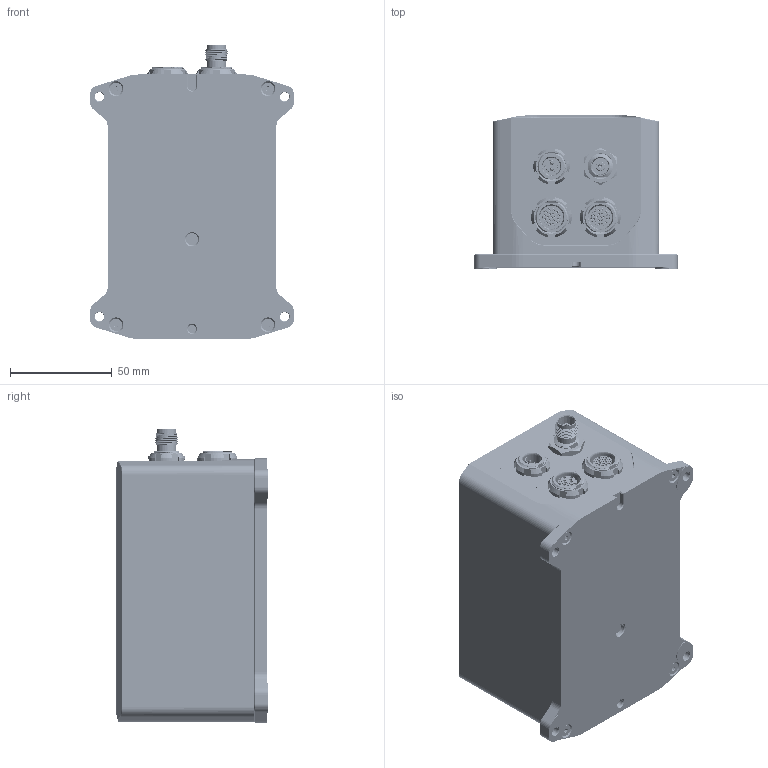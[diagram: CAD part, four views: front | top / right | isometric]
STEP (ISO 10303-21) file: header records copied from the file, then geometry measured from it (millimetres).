
FILE_DESCRIPTION (( 'STEP AP214' ), '1' );
FILE_NAME ('MC-NGIS-N.STEP', '2014-11-10T15:44:44', ( '' ), ( '' ), 'SwSTEP 2.0', 'SolidWorks 2013', '' );
FILE_SCHEMA (( 'AUTOMOTIVE_DESIGN' ));
Length unit declared in the file: millimetre
Products named in the file (1): MC-NGIS-N
Bounding box: 100 x 75 x 144.5 mm (x, y, z)
Surface area: 101433.4 mm2 (no closed solid volume)
Topology: 0 solids, 39 shells, 4167 faces, 11925 edges, 7955 vertices
Faces by surface type: cylinder 1492, plane 1460, cone 567, bspline 385, torus 261, sphere 2
Entity records: 231856 total; most frequent: CARTESIAN_POINT 87163, ORIENTED_EDGE 23614, DIRECTION 16088, EDGE_CURVE 11813, VERTEX_POINT 7951, AXIS2_PLACEMENT_3D 5950, B_SPLINE_CURVE_WITH_KNOTS 5152, EDGE_LOOP 4548
